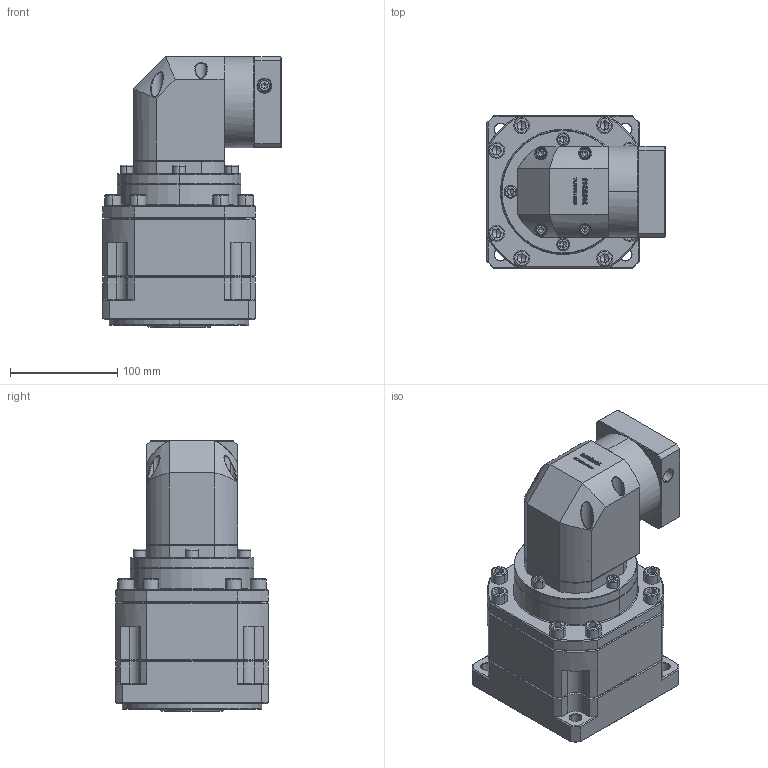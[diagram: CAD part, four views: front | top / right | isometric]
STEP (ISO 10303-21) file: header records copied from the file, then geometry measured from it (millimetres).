
FILE_DESCRIPTION (( 'STEP AP214' ), '1' );
FILE_NAME ('ZB142A-K35-L3-16-80-100-M6.step', '2023-03-20T12:08:00', ( '' ), ( '' ), 'SwSTEP 2.0', 'SolidWorks 2016', '' );
FILE_SCHEMA (( 'AUTOMOTIVE_DESIGN' ));
Length unit declared in the file: millimetre
Products named in the file (1): ZB142A-K35-L3-16-80-100-M6
Bounding box: 166.1 x 142 x 252.2 mm (x, y, z)
Volume: 3191824.8 mm3; surface area: 238824 mm2
Topology: 6 solids, 6 shells, 3270 faces, 8527 edges, 5428 vertices
Faces by surface type: plane 1738, bspline 596, cylinder 488, cone 390, torus 58
Entity records: 169650 total; most frequent: CARTESIAN_POINT 58069, ORIENTED_EDGE 16918, DIRECTION 13427, EDGE_CURVE 8459, VECTOR 5709, LINE 5709, VERTEX_POINT 5428, AXIS2_PLACEMENT_3D 3859
